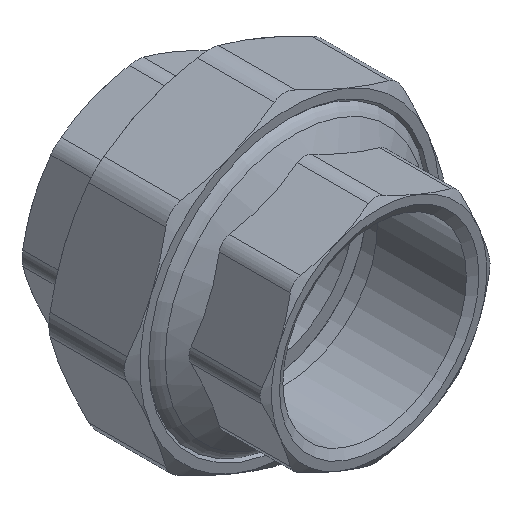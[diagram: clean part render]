
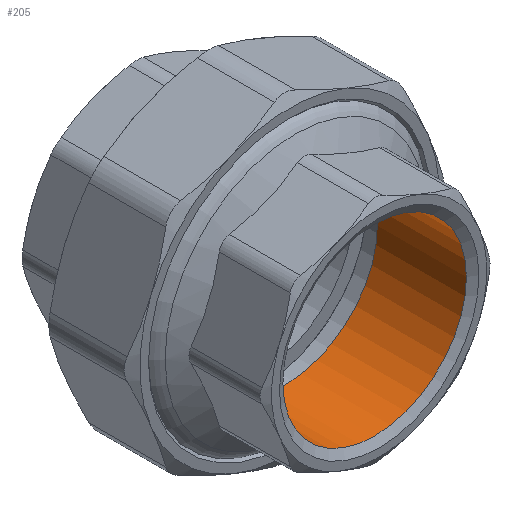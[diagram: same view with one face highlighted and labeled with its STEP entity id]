
A CAD part, isometric view. The second image highlights one B-rep face of the part: STEP entity #205.
In plain terms, the highlighted cylindrical face has radius 19.6 mm (diameter 39.2 mm), a full revolution.
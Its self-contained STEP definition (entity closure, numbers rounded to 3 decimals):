
#205=ADVANCED_FACE('',(#1327,#1329),#1331,.F.);
#1327=FACE_OUTER_BOUND('',#1328,.T.);
#1328=EDGE_LOOP('',(#2705));
#1329=FACE_OUTER_BOUND('',#1330,.T.);
#1330=EDGE_LOOP('',(#2706));
#1331=CYLINDRICAL_SURFACE('',#1332,19.6);
#1332=AXIS2_PLACEMENT_3D('',#1333,#1334,#1335);
#1333=CARTESIAN_POINT('',(0.,31.5,0.));
#1334=DIRECTION('',(0.,-1.,0.));
#1335=DIRECTION('',(1.,0.,0.));
#2705=ORIENTED_EDGE('',*,*,#3382,.T.);
#2706=ORIENTED_EDGE('',*,*,#3470,.T.);
#3382=EDGE_CURVE('',#4197,#4197,#4198,.F.);
#3470=EDGE_CURVE('',#4333,#4333,#4334,.T.);
#4197=VERTEX_POINT('',#6499);
#4198=CIRCLE('',#6500,19.6);
#4333=VERTEX_POINT('',#8012);
#4334=CIRCLE('',#8013,19.6);
#6499=CARTESIAN_POINT('',(19.6,20.,0.));
#6500=AXIS2_PLACEMENT_3D('',#6501,#6502,#6503);
#6501=CARTESIAN_POINT('',(0.,20.,0.));
#6502=DIRECTION('',(0.,-1.,0.));
#6503=DIRECTION('',(1.,0.,0.));
#8012=CARTESIAN_POINT('',(19.6,0.981,0.));
#8013=AXIS2_PLACEMENT_3D('',#8014,#8015,#8016);
#8014=CARTESIAN_POINT('',(0.,0.981,0.));
#8015=DIRECTION('',(0.,-1.,0.));
#8016=DIRECTION('',(1.,0.,0.));
